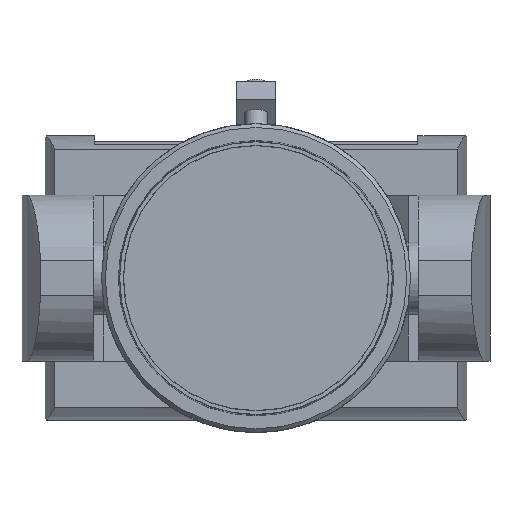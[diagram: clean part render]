
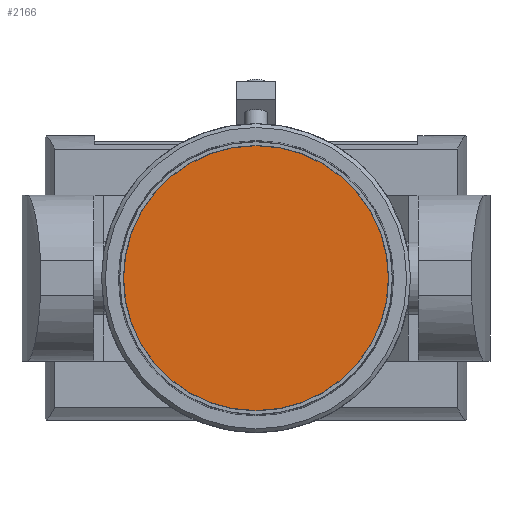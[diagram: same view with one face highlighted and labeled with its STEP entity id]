
A CAD part, left-side view. The second image highlights one B-rep face of the part: STEP entity #2166.
In plain terms, the highlighted planar face has unit normal (-1, 0, 0).
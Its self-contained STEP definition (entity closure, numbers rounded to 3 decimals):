
#1003=ORIENTED_EDGE('',*,*,#1270,.T.);
#1270=EDGE_CURVE('',#1465,#1465,#1538,.T.);
#1465=VERTEX_POINT('',#3826);
#1538=CIRCLE('',#2445,69.453);
#1740=EDGE_LOOP('',(#1003));
#1942=FACE_BOUND('',#1740,.T.);
#2030=PLANE('',#2446);
#2166=ADVANCED_FACE('',(#1942),#2030,.F.);
#2445=AXIS2_PLACEMENT_3D('',#3825,#3058,#3059);
#2446=AXIS2_PLACEMENT_3D('',#3827,#3060,#3061);
#3058=DIRECTION('',(-1.,0.,0.));
#3059=DIRECTION('',(0.,0.,1.));
#3060=DIRECTION('',(1.,0.,0.));
#3061=DIRECTION('',(0.,0.,-1.));
#3825=CARTESIAN_POINT('',(-116.5,0.,0.));
#3826=CARTESIAN_POINT('',(-116.5,0.,69.453));
#3827=CARTESIAN_POINT('',(-116.5,0.,69.453));
